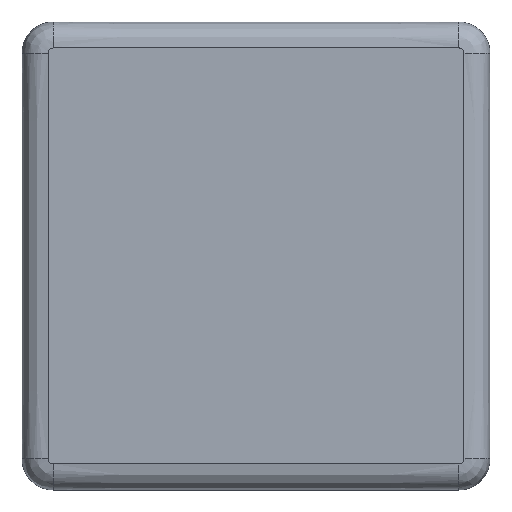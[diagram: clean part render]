
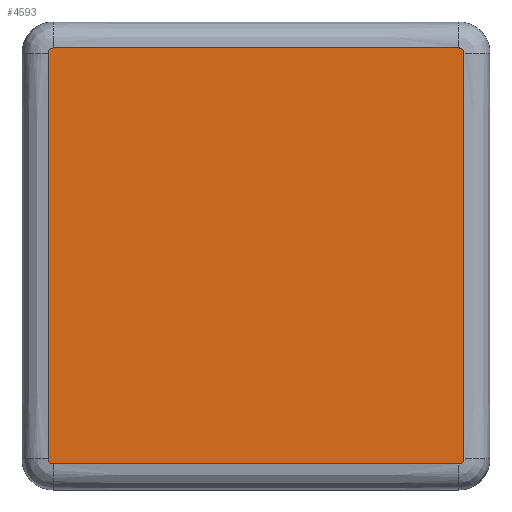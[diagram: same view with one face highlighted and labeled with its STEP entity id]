
A CAD part, top view. The second image highlights one B-rep face of the part: STEP entity #4593.
In plain terms, the highlighted planar face has unit normal (0, 0, 1).
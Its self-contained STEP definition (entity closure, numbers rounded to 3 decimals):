
#95 = B_SPLINE_CURVE_WITH_KNOTS ( 'NONE', 3,
 ( #7540, #3043, #3802, #683, #5300, #7535, #2966, #5364, #6099, #8342, #9147, #6872 ),
 .UNSPECIFIED., .F., .F.,
 ( 4, 2, 2, 2, 2, 4 ),
 ( 0., 0.25, 0.375, 0.5, 0.75, 1. ),
 .UNSPECIFIED. ) ;
#235 = CARTESIAN_POINT ( 'NONE',  ( -6.5, -20., 4. ) ) ;
#285 = CARTESIAN_POINT ( 'NONE',  ( 20., -19.5, 4. ) ) ;
#491 = CARTESIAN_POINT ( 'NONE',  ( -19.5, 20., 4. ) ) ;
#683 = CARTESIAN_POINT ( 'NONE',  ( -19.721, 19.95, 4. ) ) ;
#776 = CARTESIAN_POINT ( 'NONE',  ( 20., 19.5, 4. ) ) ;
#822 = CARTESIAN_POINT ( 'NONE',  ( -19.986, -19.631, 4. ) ) ;
#995 = B_SPLINE_CURVE_WITH_KNOTS ( 'NONE', 3,
 ( #4694, #235, #8578, #1640 ),
 .UNSPECIFIED., .F., .F.,
 ( 4, 4 ),
 ( 0., 1. ),
 .UNSPECIFIED. ) ;
#1103 = CARTESIAN_POINT ( 'NONE',  ( -20., -19.5, 4. ) ) ;
#1105 = EDGE_CURVE ( 'NONE', #8281, #4072, #4078, .T. ) ;
#1139 = CARTESIAN_POINT ( 'NONE',  ( 19.937, -19.752, 4. ) ) ;
#1460 = CARTESIAN_POINT ( 'NONE',  ( -19.876, -19.831, 4. ) ) ;
#1596 = CARTESIAN_POINT ( 'NONE',  ( -19.631, -19.987, 4. ) ) ;
#1640 = CARTESIAN_POINT ( 'NONE',  ( 19.5, -20., 4. ) ) ;
#1703 = ORIENTED_EDGE ( 'NONE', *, *, #6868, .T. ) ;
#1801 = CARTESIAN_POINT ( 'NONE',  ( -20., -19.5, 4. ) ) ;
#1948 = ORIENTED_EDGE ( 'NONE', *, *, #3352, .T. ) ;
#2195 = CARTESIAN_POINT ( 'NONE',  ( -19.95, -19.721, 4. ) ) ;
#2240 = CARTESIAN_POINT ( 'NONE',  ( 20., 19.5, 4. ) ) ;
#2417 = B_SPLINE_CURVE_WITH_KNOTS ( 'NONE', 3,
 ( #3291, #7794, #4077, #4013, #5545, #8565, #6393, #5629, #5511, #4868, #9441, #2540 ),
 .UNSPECIFIED., .F., .F.,
 ( 4, 2, 2, 2, 2, 4 ),
 ( 0., 0.25, 0.375, 0.5, 0.75, 1. ),
 .UNSPECIFIED. ) ;
#2540 = CARTESIAN_POINT ( 'NONE',  ( 19.5, 20., 4. ) ) ;
#2577 = CARTESIAN_POINT ( 'NONE',  ( -6.5, 20., 4. ) ) ;
#2663 = DIRECTION ( 'NONE',  ( -1., 0., 0. ) ) ;
#2702 = VERTEX_POINT ( 'NONE', #3778 ) ;
#2727 = CARTESIAN_POINT ( 'NONE',  ( 19.831, -19.876, 4. ) ) ;
#2820 = EDGE_CURVE ( 'NONE', #3870, #2702, #995, .T. ) ;
#2966 = CARTESIAN_POINT ( 'NONE',  ( -19.831, 19.876, 4. ) ) ;
#2974 = CARTESIAN_POINT ( 'NONE',  ( 20., 6.5, 4. ) ) ;
#3043 = CARTESIAN_POINT ( 'NONE',  ( -19.566, 20., 4. ) ) ;
#3259 = FACE_OUTER_BOUND ( 'NONE', #7564, .T. ) ;
#3291 = CARTESIAN_POINT ( 'NONE',  ( 20., 19.5, 4. ) ) ;
#3294 = B_SPLINE_CURVE_WITH_KNOTS ( 'NONE', 3,
 ( #7051, #7138, #2577, #7919 ),
 .UNSPECIFIED., .F., .F.,
 ( 4, 4 ),
 ( 0., 1. ),
 .UNSPECIFIED. ) ;
#3352 = EDGE_CURVE ( 'NONE', #4072, #6369, #2417, .T. ) ;
#3420 = CARTESIAN_POINT ( 'NONE',  ( 20., -19.5, 4. ) ) ;
#3458 = ORIENTED_EDGE ( 'NONE', *, *, #7002, .T. ) ;
#3479 = EDGE_CURVE ( 'NONE', #2702, #8281, #6243, .T. ) ;
#3778 = CARTESIAN_POINT ( 'NONE',  ( 19.5, -20., 4. ) ) ;
#3802 = CARTESIAN_POINT ( 'NONE',  ( -19.631, 19.986, 4. ) ) ;
#3807 = CARTESIAN_POINT ( 'NONE',  ( 20., -6.5, 4. ) ) ;
#3870 = VERTEX_POINT ( 'NONE', #6608 ) ;
#3925 = ORIENTED_EDGE ( 'NONE', *, *, #6291, .T. ) ;
#4013 = CARTESIAN_POINT ( 'NONE',  ( 19.95, 19.721, 4. ) ) ;
#4072 = VERTEX_POINT ( 'NONE', #776 ) ;
#4077 = CARTESIAN_POINT ( 'NONE',  ( 19.986, 19.631, 4. ) ) ;
#4078 = B_SPLINE_CURVE_WITH_KNOTS ( 'NONE', 3,
 ( #5164, #3807, #2974, #2240 ),
 .UNSPECIFIED., .F., .F.,
 ( 4, 4 ),
 ( 0., 1. ),
 .UNSPECIFIED. ) ;
#4107 = CARTESIAN_POINT ( 'NONE',  ( 19.566, -20., 4. ) ) ;
#4593 = ADVANCED_FACE ( 'NONE', ( #3259 ), #4772, .F. ) ;
#4637 = CARTESIAN_POINT ( 'NONE',  ( -20., -19.566, 4. ) ) ;
#4694 = CARTESIAN_POINT ( 'NONE',  ( -19.5, -20., 4. ) ) ;
#4772 = PLANE ( 'NONE',  #5122 ) ;
#4846 = CARTESIAN_POINT ( 'NONE',  ( 19.5, -20., 4. ) ) ;
#4859 = CARTESIAN_POINT ( 'NONE',  ( -20., -6.5, 4. ) ) ;
#4868 = CARTESIAN_POINT ( 'NONE',  ( 19.631, 19.987, 4. ) ) ;
#4890 = ORIENTED_EDGE ( 'NONE', *, *, #3479, .T. ) ;
#5122 = AXIS2_PLACEMENT_3D ( 'NONE', #8745, #8032, #2663 ) ;
#5164 = CARTESIAN_POINT ( 'NONE',  ( 20., -19.5, 4. ) ) ;
#5300 = CARTESIAN_POINT ( 'NONE',  ( -19.75, 19.935, 4. ) ) ;
#5364 = CARTESIAN_POINT ( 'NONE',  ( -19.9, 19.808, 4. ) ) ;
#5438 = CARTESIAN_POINT ( 'NONE',  ( -19.752, -19.937, 4. ) ) ;
#5489 = CARTESIAN_POINT ( 'NONE',  ( -20., 19.5, 4. ) ) ;
#5511 = CARTESIAN_POINT ( 'NONE',  ( 19.752, 19.937, 4. ) ) ;
#5545 = CARTESIAN_POINT ( 'NONE',  ( 19.935, 19.75, 4. ) ) ;
#5560 = EDGE_CURVE ( 'NONE', #6369, #9594, #3294, .T. ) ;
#5615 = CARTESIAN_POINT ( 'NONE',  ( -20., 6.5, 4. ) ) ;
#5629 = CARTESIAN_POINT ( 'NONE',  ( 19.808, 19.9, 4. ) ) ;
#5663 = CARTESIAN_POINT ( 'NONE',  ( 19.75, -19.935, 4. ) ) ;
#5684 = CARTESIAN_POINT ( 'NONE',  ( -20., 19.5, 4. ) ) ;
#5889 = VERTEX_POINT ( 'NONE', #5489 ) ;
#5953 = VERTEX_POINT ( 'NONE', #1801 ) ;
#6099 = CARTESIAN_POINT ( 'NONE',  ( -19.937, 19.752, 4. ) ) ;
#6243 = B_SPLINE_CURVE_WITH_KNOTS ( 'NONE', 3,
 ( #4846, #4107, #8006, #8843, #5663, #6420, #2727, #7169, #1139, #7297, #9600, #3420 ),
 .UNSPECIFIED., .F., .F.,
 ( 4, 2, 2, 2, 2, 4 ),
 ( 0., 0.25, 0.375, 0.5, 0.75, 1. ),
 .UNSPECIFIED. ) ;
#6291 = EDGE_CURVE ( 'NONE', #5889, #5953, #9877, .T. ) ;
#6369 = VERTEX_POINT ( 'NONE', #9621 ) ;
#6393 = CARTESIAN_POINT ( 'NONE',  ( 19.876, 19.831, 4. ) ) ;
#6420 = CARTESIAN_POINT ( 'NONE',  ( 19.804, -19.898, 4. ) ) ;
#6608 = CARTESIAN_POINT ( 'NONE',  ( -19.5, -20., 4. ) ) ;
#6868 = EDGE_CURVE ( 'NONE', #9594, #5889, #95, .T. ) ;
#6872 = CARTESIAN_POINT ( 'NONE',  ( -20., 19.5, 4. ) ) ;
#7002 = EDGE_CURVE ( 'NONE', #5953, #3870, #7726, .T. ) ;
#7051 = CARTESIAN_POINT ( 'NONE',  ( 19.5, 20., 4. ) ) ;
#7096 = ORIENTED_EDGE ( 'NONE', *, *, #1105, .T. ) ;
#7126 = ORIENTED_EDGE ( 'NONE', *, *, #2820, .T. ) ;
#7138 = CARTESIAN_POINT ( 'NONE',  ( 6.5, 20., 4. ) ) ;
#7169 = CARTESIAN_POINT ( 'NONE',  ( 19.9, -19.808, 4. ) ) ;
#7297 = CARTESIAN_POINT ( 'NONE',  ( 19.987, -19.631, 4. ) ) ;
#7535 = CARTESIAN_POINT ( 'NONE',  ( -19.804, 19.898, 4. ) ) ;
#7540 = CARTESIAN_POINT ( 'NONE',  ( -19.5, 20., 4. ) ) ;
#7564 = EDGE_LOOP ( 'NONE', ( #3458, #7126, #4890, #7096, #1948, #8712, #1703, #3925 ) ) ;
#7575 = CARTESIAN_POINT ( 'NONE',  ( -19.808, -19.9, 4. ) ) ;
#7726 = B_SPLINE_CURVE_WITH_KNOTS ( 'NONE', 3,
 ( #9222, #4637, #822, #2195, #9869, #9909, #1460, #7575, #5438, #1596, #7754, #9259 ),
 .UNSPECIFIED., .F., .F.,
 ( 4, 2, 2, 2, 2, 4 ),
 ( 0., 0.25, 0.375, 0.5, 0.75, 1. ),
 .UNSPECIFIED. ) ;
#7754 = CARTESIAN_POINT ( 'NONE',  ( -19.567, -20., 4. ) ) ;
#7794 = CARTESIAN_POINT ( 'NONE',  ( 20., 19.566, 4. ) ) ;
#7919 = CARTESIAN_POINT ( 'NONE',  ( -19.5, 20., 4. ) ) ;
#8006 = CARTESIAN_POINT ( 'NONE',  ( 19.631, -19.986, 4. ) ) ;
#8032 = DIRECTION ( 'NONE',  ( 0., 0., -1. ) ) ;
#8281 = VERTEX_POINT ( 'NONE', #285 ) ;
#8342 = CARTESIAN_POINT ( 'NONE',  ( -19.987, 19.631, 4. ) ) ;
#8565 = CARTESIAN_POINT ( 'NONE',  ( 19.898, 19.804, 4. ) ) ;
#8578 = CARTESIAN_POINT ( 'NONE',  ( 6.5, -20., 4. ) ) ;
#8712 = ORIENTED_EDGE ( 'NONE', *, *, #5560, .T. ) ;
#8745 = CARTESIAN_POINT ( 'NONE',  ( 0., 0., 4. ) ) ;
#8843 = CARTESIAN_POINT ( 'NONE',  ( 19.721, -19.95, 4. ) ) ;
#9147 = CARTESIAN_POINT ( 'NONE',  ( -20., 19.567, 4. ) ) ;
#9222 = CARTESIAN_POINT ( 'NONE',  ( -20., -19.5, 4. ) ) ;
#9259 = CARTESIAN_POINT ( 'NONE',  ( -19.5, -20., 4. ) ) ;
#9441 = CARTESIAN_POINT ( 'NONE',  ( 19.567, 20., 4. ) ) ;
#9594 = VERTEX_POINT ( 'NONE', #491 ) ;
#9600 = CARTESIAN_POINT ( 'NONE',  ( 20., -19.567, 4. ) ) ;
#9621 = CARTESIAN_POINT ( 'NONE',  ( 19.5, 20., 4. ) ) ;
#9869 = CARTESIAN_POINT ( 'NONE',  ( -19.935, -19.75, 4. ) ) ;
#9877 = B_SPLINE_CURVE_WITH_KNOTS ( 'NONE', 3,
 ( #5684, #5615, #4859, #1103 ),
 .UNSPECIFIED., .F., .F.,
 ( 4, 4 ),
 ( 0., 1. ),
 .UNSPECIFIED. ) ;
#9909 = CARTESIAN_POINT ( 'NONE',  ( -19.898, -19.804, 4. ) ) ;
